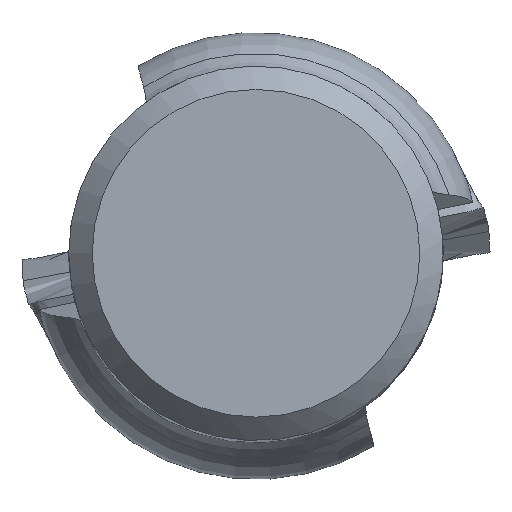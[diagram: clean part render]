
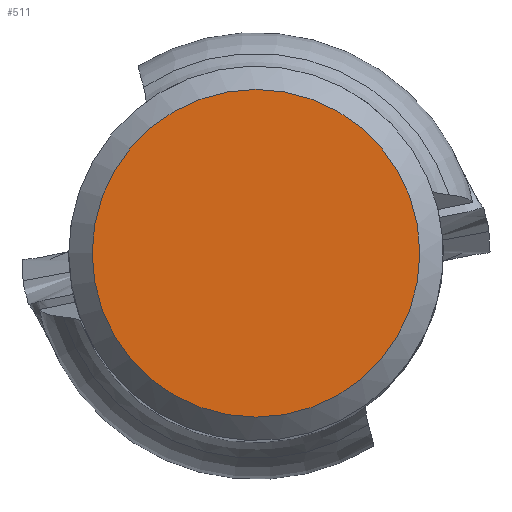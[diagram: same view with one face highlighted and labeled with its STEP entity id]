
A CAD part, top view. The second image highlights one B-rep face of the part: STEP entity #511.
In plain terms, the highlighted planar face has unit normal (0, 0, 1).
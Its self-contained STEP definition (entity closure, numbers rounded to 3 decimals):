
#218=PLANE('',#2818);
#511=ADVANCED_FACE('',(#681),#218,.F.);
#681=FACE_OUTER_BOUND('',#817,.T.);
#817=EDGE_LOOP('',(#1297));
#1161=CIRCLE('',#2817,6.997);
#1297=ORIENTED_EDGE('',*,*,#2302,.F.);
#2030=VERTEX_POINT('',#4155);
#2302=EDGE_CURVE('',#2030,#2030,#1161,.T.);
#2817=AXIS2_PLACEMENT_3D('',#4154,#3143,#3144);
#2818=AXIS2_PLACEMENT_3D('',#4156,#3145,#3146);
#3143=DIRECTION('',(0.,0.,-1.));
#3144=DIRECTION('',(-1.,0.,0.));
#3145=DIRECTION('',(0.,0.,-1.));
#3146=DIRECTION('',(-1.,0.,0.));
#4154=CARTESIAN_POINT('',(0.,0.,0.012));
#4155=CARTESIAN_POINT('',(-6.997,0.,0.012));
#4156=CARTESIAN_POINT('',(0.,0.,0.012));
